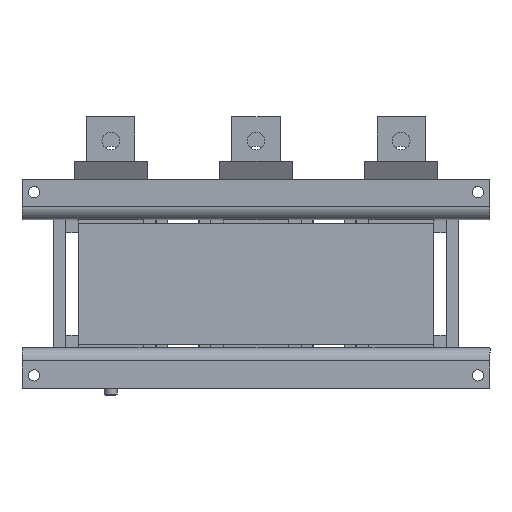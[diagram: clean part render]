
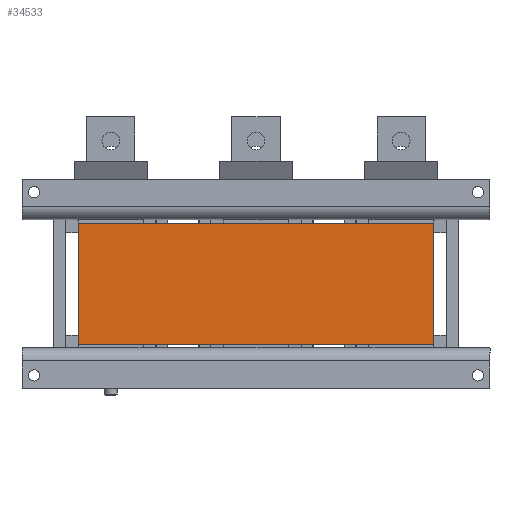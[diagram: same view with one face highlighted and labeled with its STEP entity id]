
A CAD part, front view. The second image highlights one B-rep face of the part: STEP entity #34533.
In plain terms, the highlighted planar face has unit normal (0, -1, 0).
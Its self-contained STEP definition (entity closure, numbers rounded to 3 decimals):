
#1449=LINE('',#50578,#4828);
#1450=LINE('',#50580,#4829);
#1451=LINE('',#50582,#4830);
#1452=LINE('',#50583,#4831);
#4828=VECTOR('',#41056,10.);
#4829=VECTOR('',#41057,10.);
#4830=VECTOR('',#41058,10.);
#4831=VECTOR('',#41059,10.);
#7678=PLANE('',#36654);
#9507=FACE_OUTER_BOUND('',#11543,.T.);
#11543=EDGE_LOOP('',(#24441,#24442,#24443,#24444));
#15225=VERTEX_POINT('',#50576);
#15226=VERTEX_POINT('',#50577);
#15227=VERTEX_POINT('',#50579);
#15228=VERTEX_POINT('',#50581);
#18730=EDGE_CURVE('',#15225,#15226,#1449,.T.);
#18731=EDGE_CURVE('',#15227,#15225,#1450,.T.);
#18732=EDGE_CURVE('',#15227,#15228,#1451,.T.);
#18733=EDGE_CURVE('',#15226,#15228,#1452,.T.);
#24441=ORIENTED_EDGE('',*,*,#18730,.F.);
#24442=ORIENTED_EDGE('',*,*,#18731,.F.);
#24443=ORIENTED_EDGE('',*,*,#18732,.T.);
#24444=ORIENTED_EDGE('',*,*,#18733,.F.);
#34533=ADVANCED_FACE('',(#9507),#7678,.T.);
#36654=AXIS2_PLACEMENT_3D('',#50575,#41054,#41055);
#41054=DIRECTION('center_axis',(0.,-1.,0.));
#41055=DIRECTION('ref_axis',(1.,0.,0.));
#41056=DIRECTION('',(0.,0.,1.));
#41057=DIRECTION('',(-1.,0.,0.));
#41058=DIRECTION('',(0.,0.,1.));
#41059=DIRECTION('',(1.,0.,0.));
#50575=CARTESIAN_POINT('Origin',(-110.,-110.57,0.));
#50576=CARTESIAN_POINT('',(-110.,-110.57,-37.5));
#50577=CARTESIAN_POINT('',(-110.,-110.57,37.5));
#50578=CARTESIAN_POINT('',(-110.,-110.57,0.));
#50579=CARTESIAN_POINT('',(110.,-110.57,-37.5));
#50580=CARTESIAN_POINT('',(-110.,-110.57,-37.5));
#50581=CARTESIAN_POINT('',(110.,-110.57,37.5));
#50582=CARTESIAN_POINT('',(110.,-110.57,0.));
#50583=CARTESIAN_POINT('',(-110.,-110.57,37.5));
